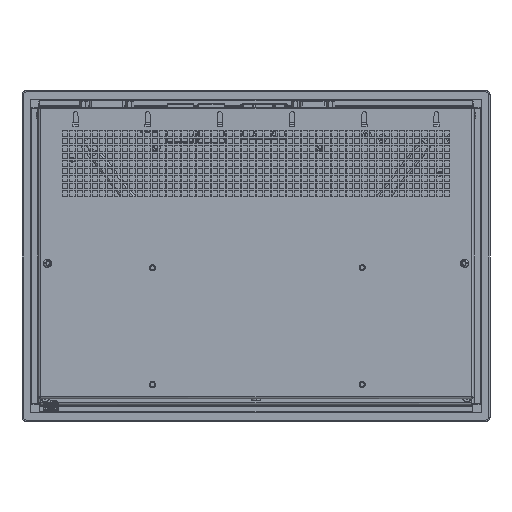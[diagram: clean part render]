
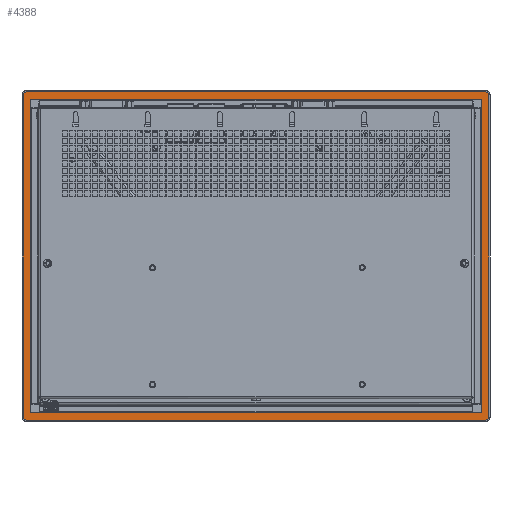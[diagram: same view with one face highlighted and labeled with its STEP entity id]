
A CAD part, front view. The second image highlights one B-rep face of the part: STEP entity #4388.
In plain terms, the highlighted planar face has unit normal (0, -1, 0).
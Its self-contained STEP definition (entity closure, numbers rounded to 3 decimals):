
#4135=CARTESIAN_POINT('',(-6.398,-0.059,
-4.291));
#4136=DIRECTION('',(0.,1.,0.));
#4137=DIRECTION('',(0.,0.,-1.));
#4138=AXIS2_PLACEMENT_3D('',#4135,#4136,#4137);
#4140=DIRECTION('',(0.,0.,1.));
#4141=VECTOR('',#4140,8.976);
#4142=CARTESIAN_POINT('',(-6.476,-0.059,
-4.291));
#4143=LINE('',#4142,#4141);
#4144=CARTESIAN_POINT('',(-6.398,-0.059,
4.685));
#4145=DIRECTION('',(0.,1.,0.));
#4146=DIRECTION('',(-1.,0.,0.));
#4147=AXIS2_PLACEMENT_3D('',#4144,#4145,#4146);
#4149=DIRECTION('',(1.,0.,0.));
#4150=VECTOR('',#4149,12.795);
#4151=CARTESIAN_POINT('',(-6.398,-0.059,
4.764));
#4152=LINE('',#4151,#4150);
#4153=CARTESIAN_POINT('',(6.398,-0.059,
4.685));
#4154=DIRECTION('',(0.,1.,0.));
#4155=DIRECTION('',(0.,0.,1.));
#4156=AXIS2_PLACEMENT_3D('',#4153,#4154,#4155);
#4158=DIRECTION('',(0.,0.,-1.));
#4159=VECTOR('',#4158,8.976);
#4160=CARTESIAN_POINT('',(6.476,-0.059,
4.685));
#4161=LINE('',#4160,#4159);
#4162=CARTESIAN_POINT('',(6.398,-0.059,
-4.291));
#4163=DIRECTION('',(0.,1.,0.));
#4164=DIRECTION('',(1.,0.,0.));
#4165=AXIS2_PLACEMENT_3D('',#4162,#4163,#4164);
#4167=DIRECTION('',(-1.,0.,0.));
#4168=VECTOR('',#4167,12.795);
#4169=CARTESIAN_POINT('',(6.398,-0.059,
-4.37));
#4170=LINE('',#4169,#4168);
#4171=DIRECTION('',(1.,0.,0.));
#4172=VECTOR('',#4171,12.48);
#4173=CARTESIAN_POINT('',(-6.24,-0.059,
-4.173));
#4174=LINE('',#4173,#4172);
#4175=CARTESIAN_POINT('',(6.24,-0.059,
-4.134));
#4176=DIRECTION('',(0.,-1.,0.));
#4177=DIRECTION('',(0.,0.,-1.));
#4178=AXIS2_PLACEMENT_3D('',#4175,#4176,#4177);
#4180=DIRECTION('',(0.,0.,1.));
#4181=VECTOR('',#4180,8.661);
#4182=CARTESIAN_POINT('',(6.28,-0.059,
-4.134));
#4183=LINE('',#4182,#4181);
#4184=CARTESIAN_POINT('',(6.24,-0.059,
4.528));
#4185=DIRECTION('',(0.,-1.,0.));
#4186=DIRECTION('',(1.,0.,0.));
#4187=AXIS2_PLACEMENT_3D('',#4184,#4185,#4186);
#4189=DIRECTION('',(-1.,0.,0.));
#4190=VECTOR('',#4189,12.48);
#4191=CARTESIAN_POINT('',(6.24,-0.059,
4.567));
#4192=LINE('',#4191,#4190);
#4193=CARTESIAN_POINT('',(-6.24,-0.059,
4.528));
#4194=DIRECTION('',(0.,-1.,0.));
#4195=DIRECTION('',(0.,0.,1.));
#4196=AXIS2_PLACEMENT_3D('',#4193,#4194,#4195);
#4198=DIRECTION('',(0.,0.,-1.));
#4199=VECTOR('',#4198,8.661);
#4200=CARTESIAN_POINT('',(-6.28,-0.059,
4.528));
#4201=LINE('',#4200,#4199);
#4202=CARTESIAN_POINT('',(-6.24,-0.059,
-4.134));
#4203=DIRECTION('',(0.,-1.,0.));
#4204=DIRECTION('',(-1.,0.,0.));
#4205=AXIS2_PLACEMENT_3D('',#4202,#4203,#4204);
#4291=CARTESIAN_POINT('',(-6.398,-0.059,
-4.37));
#4292=CARTESIAN_POINT('',(-6.476,-0.059,
-4.291));
#4293=VERTEX_POINT('',#4291);
#4294=VERTEX_POINT('',#4292);
#4295=CARTESIAN_POINT('',(-6.476,-0.059,
4.685));
#4296=VERTEX_POINT('',#4295);
#4297=CARTESIAN_POINT('',(-6.398,-0.059,
4.764));
#4298=VERTEX_POINT('',#4297);
#4299=CARTESIAN_POINT('',(6.398,-0.059,
4.764));
#4300=VERTEX_POINT('',#4299);
#4301=CARTESIAN_POINT('',(6.476,-0.059,
4.685));
#4302=VERTEX_POINT('',#4301);
#4303=CARTESIAN_POINT('',(6.476,-0.059,
-4.291));
#4304=VERTEX_POINT('',#4303);
#4305=CARTESIAN_POINT('',(6.398,-0.059,
-4.37));
#4306=VERTEX_POINT('',#4305);
#4307=CARTESIAN_POINT('',(-6.24,-0.059,
-4.173));
#4308=CARTESIAN_POINT('',(6.24,-0.059,
-4.173));
#4309=VERTEX_POINT('',#4307);
#4310=VERTEX_POINT('',#4308);
#4311=CARTESIAN_POINT('',(6.28,-0.059,
-4.134));
#4312=VERTEX_POINT('',#4311);
#4313=CARTESIAN_POINT('',(6.28,-0.059,
4.528));
#4314=VERTEX_POINT('',#4313);
#4315=CARTESIAN_POINT('',(6.24,-0.059,
4.567));
#4316=VERTEX_POINT('',#4315);
#4317=CARTESIAN_POINT('',(-6.24,-0.059,
4.567));
#4318=VERTEX_POINT('',#4317);
#4319=CARTESIAN_POINT('',(-6.28,-0.059,
4.528));
#4320=VERTEX_POINT('',#4319);
#4321=CARTESIAN_POINT('',(-6.28,-0.059,
-4.134));
#4322=VERTEX_POINT('',#4321);
#4347=CARTESIAN_POINT('',(0.,-0.059,0.197));
#4348=DIRECTION('',(0.,1.,0.));
#4349=DIRECTION('',(1.,0.,0.));
#4350=AXIS2_PLACEMENT_3D('',#4347,#4348,#4349);
#4351=PLANE('',#4350);
#4353=ORIENTED_EDGE('',*,*,#4352,.T.);
#4355=ORIENTED_EDGE('',*,*,#4354,.T.);
#4357=ORIENTED_EDGE('',*,*,#4356,.T.);
#4359=ORIENTED_EDGE('',*,*,#4358,.T.);
#4361=ORIENTED_EDGE('',*,*,#4360,.T.);
#4363=ORIENTED_EDGE('',*,*,#4362,.T.);
#4365=ORIENTED_EDGE('',*,*,#4364,.T.);
#4367=ORIENTED_EDGE('',*,*,#4366,.T.);
#4368=EDGE_LOOP('',(#4353,#4355,#4357,#4359,#4361,#4363,#4365,#4367));
#4369=FACE_OUTER_BOUND('',#4368,.F.);
#4371=ORIENTED_EDGE('',*,*,#4370,.T.);
#4373=ORIENTED_EDGE('',*,*,#4372,.T.);
#4375=ORIENTED_EDGE('',*,*,#4374,.T.);
#4377=ORIENTED_EDGE('',*,*,#4376,.T.);
#4379=ORIENTED_EDGE('',*,*,#4378,.T.);
#4381=ORIENTED_EDGE('',*,*,#4380,.T.);
#4383=ORIENTED_EDGE('',*,*,#4382,.T.);
#4385=ORIENTED_EDGE('',*,*,#4384,.T.);
#4386=EDGE_LOOP('',(#4371,#4373,#4375,#4377,#4379,#4381,#4383,#4385));
#4387=FACE_BOUND('',#4386,.F.);
#4139=CIRCLE('',#4138,0.079);
#4148=CIRCLE('',#4147,0.079);
#4157=CIRCLE('',#4156,0.079);
#4166=CIRCLE('',#4165,0.079);
#4179=CIRCLE('',#4178,0.039);
#4188=CIRCLE('',#4187,0.039);
#4197=CIRCLE('',#4196,0.039);
#4206=CIRCLE('',#4205,0.039);
#4352=EDGE_CURVE('',#4293,#4294,#4139,.T.);
#4354=EDGE_CURVE('',#4294,#4296,#4143,.T.);
#4356=EDGE_CURVE('',#4296,#4298,#4148,.T.);
#4358=EDGE_CURVE('',#4298,#4300,#4152,.T.);
#4360=EDGE_CURVE('',#4300,#4302,#4157,.T.);
#4362=EDGE_CURVE('',#4302,#4304,#4161,.T.);
#4364=EDGE_CURVE('',#4304,#4306,#4166,.T.);
#4366=EDGE_CURVE('',#4306,#4293,#4170,.T.);
#4370=EDGE_CURVE('',#4309,#4310,#4174,.T.);
#4372=EDGE_CURVE('',#4310,#4312,#4179,.T.);
#4374=EDGE_CURVE('',#4312,#4314,#4183,.T.);
#4376=EDGE_CURVE('',#4314,#4316,#4188,.T.);
#4378=EDGE_CURVE('',#4316,#4318,#4192,.T.);
#4380=EDGE_CURVE('',#4318,#4320,#4197,.T.);
#4382=EDGE_CURVE('',#4320,#4322,#4201,.T.);
#4384=EDGE_CURVE('',#4322,#4309,#4206,.T.);
#4388=ADVANCED_FACE('',(#4369,#4387),#4351,.F.);
